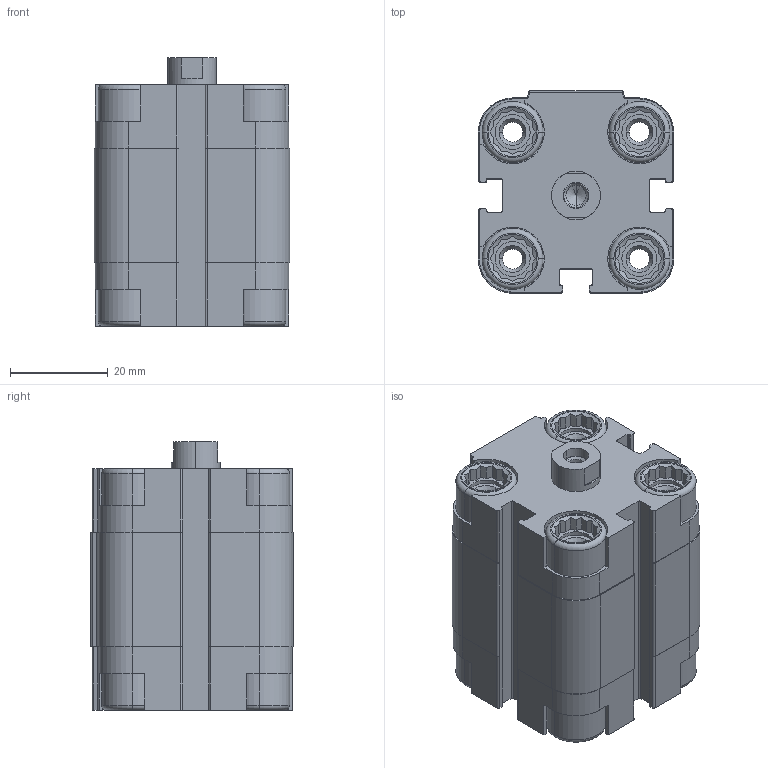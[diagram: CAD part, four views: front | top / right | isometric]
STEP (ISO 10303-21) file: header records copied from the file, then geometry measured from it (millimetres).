
FILE_DESCRIPTION (( 'STEP AP203' ), '1' );
FILE_NAME ('CDVU25-10F.STEP', '2020-03-30T14:55:57', ( '' ), ( '' ), 'SwSTEP 2.0', 'SolidWorks 2019', '' );
FILE_SCHEMA (( 'CONFIG_CONTROL_DESIGN' ));
Length unit declared in the file: millimetre
Products named in the file (1): CDVU25-10F
Bounding box: 40 x 41.5 x 55 mm (x, y, z)
Volume: 61831.2 mm3; surface area: 24188.6 mm2
Topology: 2 solids, 2 shells, 583 faces, 1540 edges, 995 vertices
Faces by surface type: plane 351, cylinder 170, cone 46, torus 16
Entity records: 18183 total; most frequent: CARTESIAN_POINT 3689, ORIENTED_EDGE 3068, DIRECTION 2926, EDGE_CURVE 1534, AXIS2_PLACEMENT_3D 1000, VERTEX_POINT 995, LINE 926, VECTOR 926
